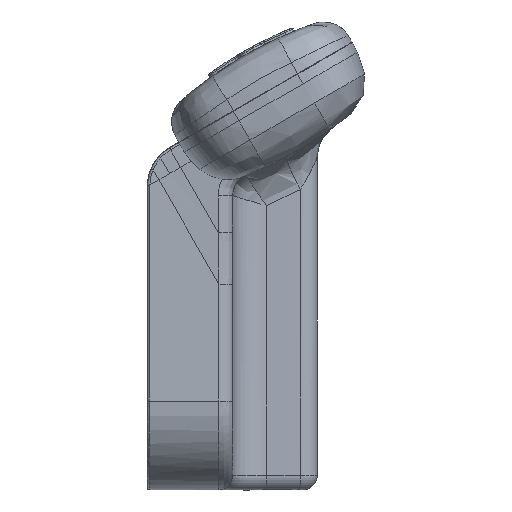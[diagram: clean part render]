
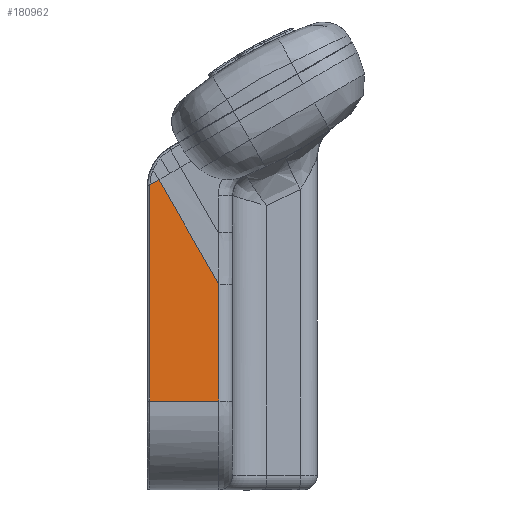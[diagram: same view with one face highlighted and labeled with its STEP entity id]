
A CAD part, left-side view. The second image highlights one B-rep face of the part: STEP entity #180962.
In plain terms, the highlighted planar face has unit normal (-0.998, -0.07, 0).
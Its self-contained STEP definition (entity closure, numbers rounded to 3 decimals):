
#544 = VERTEX_POINT ( 'NONE', #129673 ) ;
#4854 = EDGE_CURVE ( 'NONE', #206281, #131084, #144330, .T. ) ;
#5925 = DIRECTION ( 'NONE',  ( 0.07, -0.998, 0. ) ) ;
#15394 = LINE ( 'NONE', #248458, #69519 ) ;
#21146 = LINE ( 'NONE', #281690, #197999 ) ;
#35809 = DIRECTION ( 'NONE',  ( -0.035, 0.499, 0.866 ) ) ;
#45293 = CARTESIAN_POINT ( 'NONE',  ( -42.602, 24.064, -8.477 ) ) ;
#46736 = EDGE_CURVE ( 'NONE', #66462, #206281, #21146, .T. ) ;
#48408 = CARTESIAN_POINT ( 'NONE',  ( -42.5, 22.6, -69.416 ) ) ;
#61179 = LINE ( 'NONE', #150750, #115291 ) ;
#62777 = ORIENTED_EDGE ( 'NONE', *, *, #94678, .F. ) ;
#66462 = VERTEX_POINT ( 'NONE', #45293 ) ;
#69519 = VECTOR ( 'NONE', #86999, 1000. ) ;
#86999 = DIRECTION ( 'NONE',  ( 0., 0., -1. ) ) ;
#90928 = FACE_OUTER_BOUND ( 'NONE', #157203, .T. ) ;
#91065 = ORIENTED_EDGE ( 'NONE', *, *, #220137, .T. ) ;
#94678 = EDGE_CURVE ( 'NONE', #544, #172372, #15394, .T. ) ;
#104916 = CARTESIAN_POINT ( 'NONE',  ( -42.687, 25.279, -38.3 ) ) ;
#107836 = CARTESIAN_POINT ( 'NONE',  ( -42.5, 22.6, -38.3 ) ) ;
#110209 = VECTOR ( 'NONE', #131057, 1000. ) ;
#115291 = VECTOR ( 'NONE', #35809, 1000. ) ;
#120326 = DIRECTION ( 'NONE',  ( -0.06, 0.864, -0.499 ) ) ;
#120951 = PLANE ( 'NONE',  #224473 ) ;
#129673 = CARTESIAN_POINT ( 'NONE',  ( -42.035, 15.96, -22.547 ) ) ;
#131057 = DIRECTION ( 'NONE',  ( 0.07, -0.998, 0. ) ) ;
#131084 = VERTEX_POINT ( 'NONE', #104916 ) ;
#144107 = DIRECTION ( 'NONE',  ( -0.998, -0.07, 0. ) ) ;
#144330 = LINE ( 'NONE', #268663, #184015 ) ;
#150750 = CARTESIAN_POINT ( 'NONE',  ( -40.735, -2.625, -54.817 ) ) ;
#153608 = DIRECTION ( 'NONE',  ( 0., 0., -1. ) ) ;
#157203 = EDGE_LOOP ( 'NONE', ( #62777, #91065, #187690, #237806, #191128 ) ) ;
#172372 = VERTEX_POINT ( 'NONE', #181620 ) ;
#180962 = ADVANCED_FACE ( 'NONE', ( #90928 ), #120951, .T. ) ;
#181620 = CARTESIAN_POINT ( 'NONE',  ( -42.035, 15.96, -38.3 ) ) ;
#184015 = VECTOR ( 'NONE', #153608, 1000. ) ;
#187690 = ORIENTED_EDGE ( 'NONE', *, *, #46736, .T. ) ;
#191128 = ORIENTED_EDGE ( 'NONE', *, *, #261041, .T. ) ;
#197999 = VECTOR ( 'NONE', #120326, 1000. ) ;
#206281 = VERTEX_POINT ( 'NONE', #287049 ) ;
#220137 = EDGE_CURVE ( 'NONE', #544, #66462, #61179, .T. ) ;
#224473 = AXIS2_PLACEMENT_3D ( 'NONE', #48408, #144107, #5925 ) ;
#237806 = ORIENTED_EDGE ( 'NONE', *, *, #4854, .T. ) ;
#248458 = CARTESIAN_POINT ( 'NONE',  ( -42.035, 15.96, 0. ) ) ;
#261041 = EDGE_CURVE ( 'NONE', #131084, #172372, #287042, .T. ) ;
#268663 = CARTESIAN_POINT ( 'NONE',  ( -42.687, 25.279, -69.416 ) ) ;
#281690 = CARTESIAN_POINT ( 'NONE',  ( -42.602, 24.064, -8.477 ) ) ;
#287042 = LINE ( 'NONE', #107836, #110209 ) ;
#287049 = CARTESIAN_POINT ( 'NONE',  ( -42.687, 25.279, -9.178 ) ) ;
